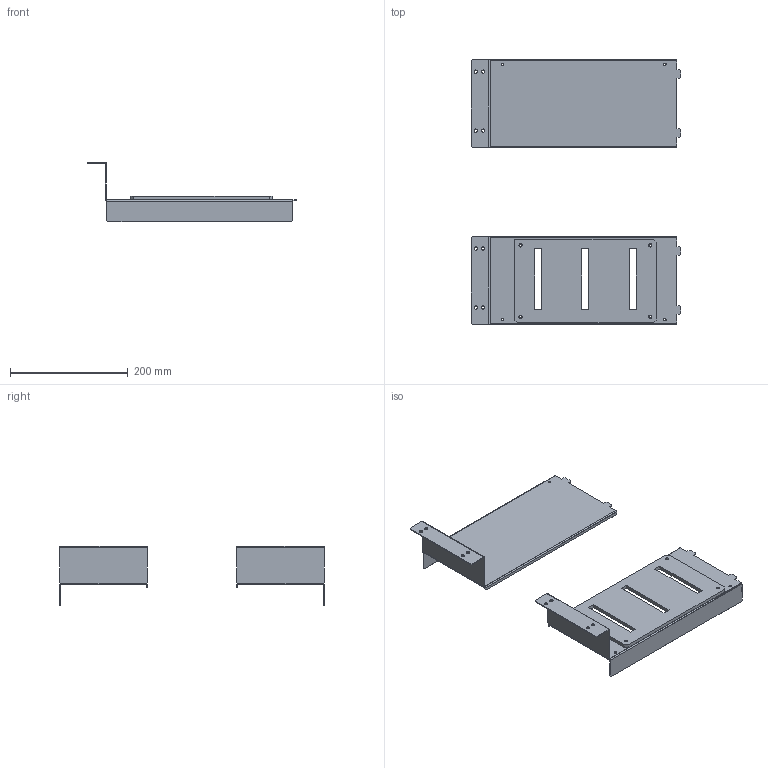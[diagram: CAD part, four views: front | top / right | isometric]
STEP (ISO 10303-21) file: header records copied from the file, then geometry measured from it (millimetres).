
FILE_DESCRIPTION(('CAx-IF Rec.Pracs.---Model Styling and Organization---1.2---2011-12-15','CAx-IF Rec.Pracs.---Geometric and Assembly Validation Properties---4.1---2014-06-16','CAx-IF Rec.Pracs.---PMI Polyline Presentation---2.0---2013-05-24'),'2;1');
FILE_NAME('R5M2W9MSA3B.stp','2021-05-05T13:07:55+03:00',(''),(''),'STEP Interface 4.4 by CT CoreTechnologie','3D_Evolution4.4 by CT CoreTechnologie','');
FILE_SCHEMA(('AUTOMOTIVE_DESIGN { 1 0 10303 214 1 1 1 1 }'));
Length unit declared in the file: millimetre
Products named in the file (4): R5M2W9MSA3B; RB.1221.00.00.0; RB.1222.00.00.0_-00; RB.1223.00.00.0_-00
Assembly tree (3 placements, depth 2):
  R5M2W9MSA3B
    RB.1221.00.00.0
    RB.1222.00.00.0_-00
    RB.1223.00.00.0_-00
Bounding box: 356 x 449 x 100.5 mm (x, y, z)
Surface area: 314377.2 mm2 (no closed solid volume)
Topology: 0 solids, 5 shells, 175 faces, 475 edges, 310 vertices
Faces by surface type: plane 119, cylinder 56
Entity records: 5736 total; most frequent: CARTESIAN_POINT 964, ORIENTED_EDGE 950, DIRECTION 945, EDGE_CURVE 475, VECTOR 363, LINE 363, VERTEX_POINT 310, AXIS2_PLACEMENT_3D 291
